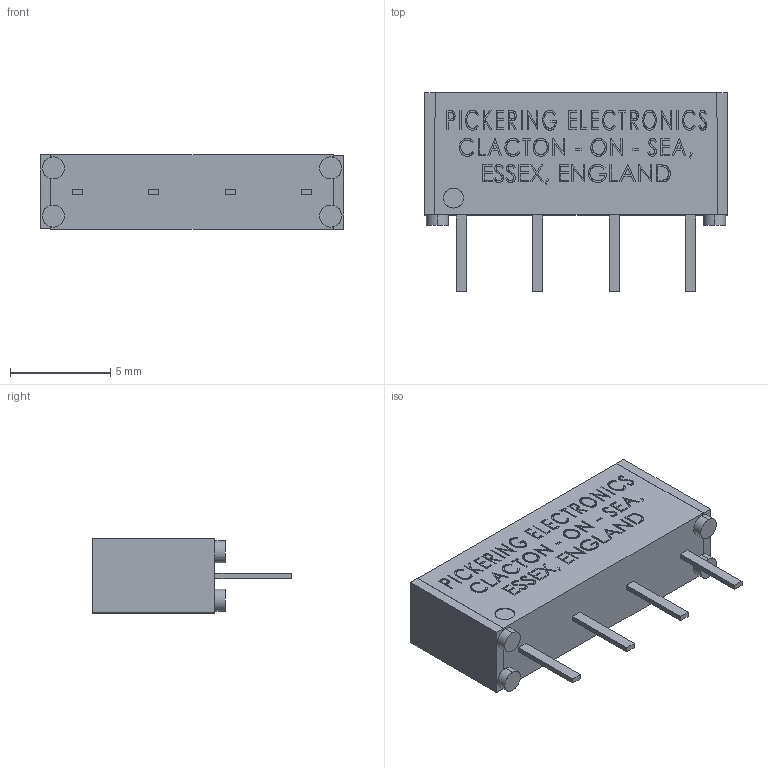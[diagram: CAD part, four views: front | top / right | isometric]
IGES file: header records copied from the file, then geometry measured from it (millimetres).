
Start section: SolidWorks IGES file using analytic representation for surfaces
Global section: file name: T:\Relays in Solidworks\Batch 1 .IGES\109-1-A-x-xx.IGS; native system: SolidWorks 2009; preprocessor: SolidWorks 2009; author: alex.leming; date: 100629.115235; units: millimetre
Bounding box: 15.1 x 9.9 x 3.7 mm (x, y, z)
Surface area: 480.8 mm2 (no closed solid volume)
Topology: 0 solids, 0 shells, 1005 faces, 8604 edges, 8604 vertices
Faces by surface type: bspline 995, revolution 10
